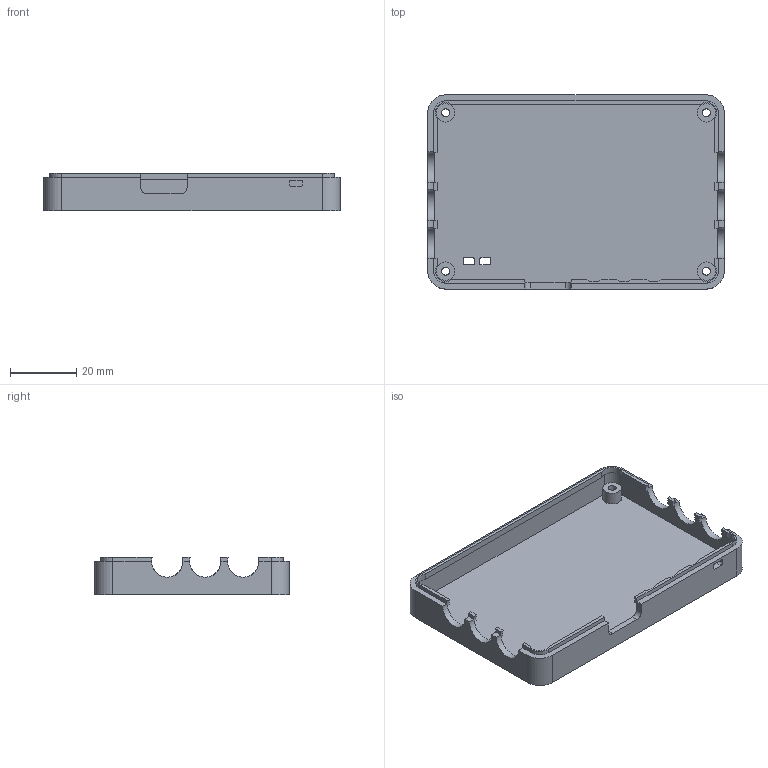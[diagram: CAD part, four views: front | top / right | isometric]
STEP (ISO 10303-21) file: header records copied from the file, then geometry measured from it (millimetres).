
FILE_DESCRIPTION(('Open CASCADE Model'),'2;1');
FILE_NAME('Open CASCADE Shape Model','2026-10-05T20:28:06',('Author'),( 'Open CASCADE'),'Open CASCADE STEP processor 7.9','Open CASCADE 7.9' ,'Unknown');
FILE_SCHEMA(('AUTOMOTIVE_DESIGN { 1 0 10303 214 1 1 1 1 }'));
Length unit declared in the file: millimetre
Products named in the file (1): Open CASCADE STEP translator 7.9 1
Bounding box: 89.8 x 58.8 x 11.4 mm (x, y, z)
Volume: 14983.6 mm3; surface area: 16522.1 mm2
Topology: 1 solids, 1 shells, 130 faces, 360 edges, 240 vertices
Faces by surface type: plane 79, cylinder 51
Full cylindrical faces by diameter (mm): 2.4 x4, 4.6 x4, 5.6 x4
Entity records: 8814 total; most frequent: CARTESIAN_POINT 2175, DIRECTION 1094, ORIENTED_EDGE 720, PCURVE 720, DEFINITIONAL_REPRESENTATION 720, LINE 524, VECTOR 524, EDGE_CURVE 360
